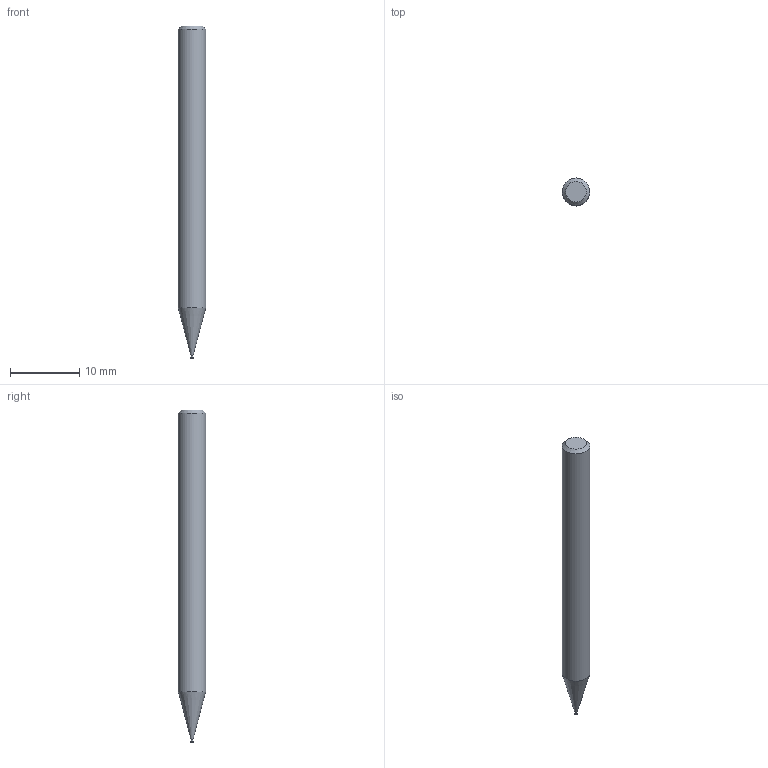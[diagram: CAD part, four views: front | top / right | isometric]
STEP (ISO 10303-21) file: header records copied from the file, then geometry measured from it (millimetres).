
FILE_DESCRIPTION((''),'2;1');
FILE_NAME('C:\Users\nsx150\AppData\Local\Temp\Mastercam 2021\LJSIDMOTM8\TEMP.step','2021-08-03T14:25:52',(''),(''),'STEP Write','Mastercam 2021 ... CNC Software, Inc.','');
FILE_SCHEMA(('AUTOMOTIVE_DESIGN'));
Length unit declared in the file: millimetre
Products named in the file (1): None
Bounding box: 4 x 4 x 48 mm (x, y, z)
Volume: 541.8 mm3; surface area: 569.3 mm2
Topology: 2 solids, 2 shells, 9 faces, 12 edges, 7 vertices
Faces by surface type: plane 4, cylinder 3, cone 2
Full cylindrical faces by diameter (mm): 0.27 x1, 0.3 x1, 4 x1
Entity records: 211 total; most frequent: DIRECTION 36, CARTESIAN_POINT 25, AXIS2_PLACEMENT_3D 18, ORIENTED_EDGE 14, EDGE_LOOP 14, STYLED_ITEM 12, ADVANCED_FACE 9, FACE_BOUND 8
